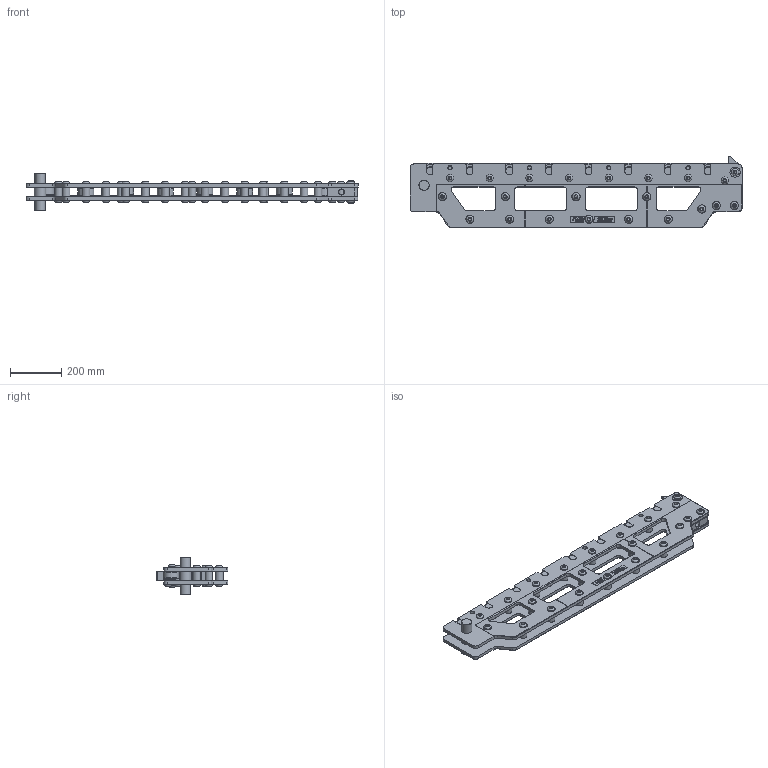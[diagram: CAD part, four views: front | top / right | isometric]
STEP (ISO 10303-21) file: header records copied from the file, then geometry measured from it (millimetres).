
FILE_DESCRIPTION(/* description */ ('CONSOLE PLATE'),/* implementation_level */ '2;1');
FILE_NAME(/* name */ 'C:\Users\jaccow\AppData\Local\Temp\Cadac\NetworkPub\step\FB959-950.iam.stp',/* time_stamp */ '2017-12-13T14:42:39+01:00',/* author */ ('Yue'),/* organization */ (''),/* preprocessor_version */ 'ST-DEVELOPER v16.1',/* originating_system */ 'Autodesk Inventor 2016',/* authorisation */ '');
FILE_SCHEMA (('AUTOMOTIVE_DESIGN { 1 0 10303 214 3 1 1 }'));
Products named in the file (16): FB960-101; FB961-026; FB962-026; FB763-186; CBE1625-0281E; CAE1160-1081A; CY148-055; FB765-044; FB767-104; FB769-104; FB963-690; FB771-101; EU120147-109; FB775-104; PP0489-996; FB959-950
Assembly tree (102 placements, depth 2):
  FB959-950
    FB960-101  x2
    FB961-026
    FB962-026
    FB763-186  x19
    CBE1625-0281E  x48
    CAE1160-1081A  x4
    CY148-055  x4
    FB765-044
    FB767-104
    FB769-104
    FB963-690
    FB771-101
    EU120147-109  x8
    FB775-104  x8
    PP0489-996  x2
Bounding box: 1297 x 280.92 x 145 mm (x, y, z)
Volume: 7980209.2 mm3; surface area: 2252699.4 mm2
Topology: 138 solids, 138 shells, 3866 faces, 9521 edges, 6246 vertices
Faces by surface type: plane 2253, bspline 642, cylinder 587, cone 192, torus 192
Full cylindrical faces by diameter (mm): 1.875 x8, 4.2 x8, 13.835 x26, 16 x48, 16.5 x4, 17 x56, 21.5 x1, 24.95 x1, 25 x2, 25.1 x1, 28 x48, 30 x39, 32 x24, 35 x8, 36.3 x8, 40 x6, 44.7 x8, 45 x1, 51 x32, 54.3 x16, 62 x8
Entity records: 82722 total; most frequent: CARTESIAN_POINT 23544, ORIENTED_EDGE 12698, DIRECTION 9330, EDGE_CURVE 6340, LINE 4546, VECTOR 4546, VERTEX_POINT 4294, EDGE_LOOP 2933
